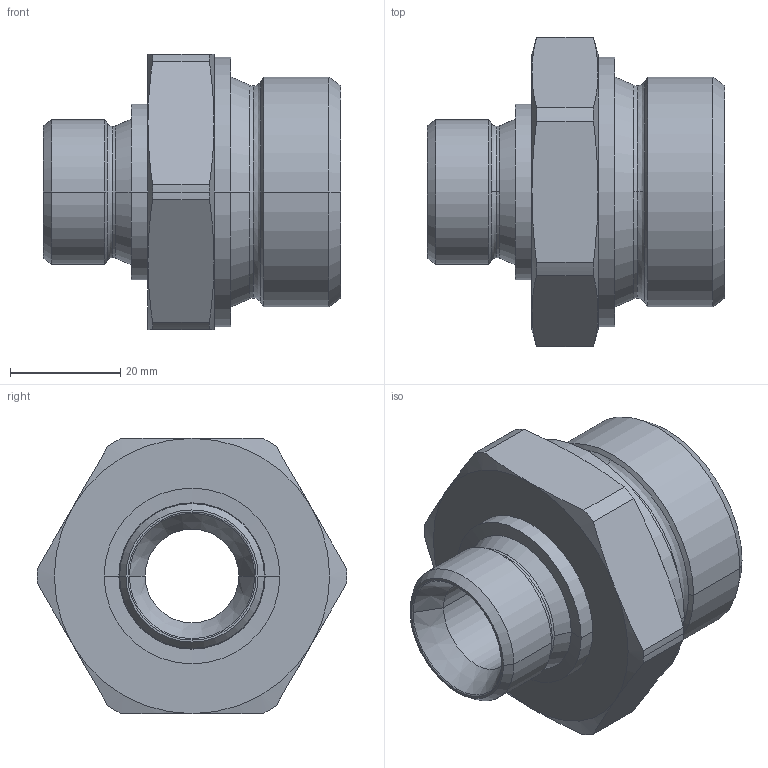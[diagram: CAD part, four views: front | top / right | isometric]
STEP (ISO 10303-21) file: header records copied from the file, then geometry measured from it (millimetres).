
FILE_DESCRIPTION((''),'2;1');
FILE_NAME('300520.stp','2006-09-11T08:12:40',(''),(''),'AutoCAD STEP 2000i','AutoCAD 2000i',', , ');
FILE_SCHEMA(('CONFIG_CONTROL_DESIGN'));
Length unit declared in the file: millimetre
Products named in the file (2): 300520.0; CHIAVE SMUSSATA#0
Assembly tree (1 placements, depth 2):
  300520.0
    CHIAVE SMUSSATA#0
Bounding box: 54 x 56.2 x 50 mm (x, y, z)
Volume: 42456.9 mm3; surface area: 13913.6 mm2
Topology: 1 solids, 1 shells, 76 faces, 178 edges, 106 vertices
Faces by surface type: cone 34, cylinder 20, plane 10, bspline 8, torus 4
Entity records: 2593 total; most frequent: CARTESIAN_POINT 762, DIRECTION 400, ORIENTED_EDGE 356, EDGE_CURVE 178, AXIS2_PLACEMENT_3D 176, VERTEX_POINT 106, CIRCLE 106, EDGE_LOOP 80
